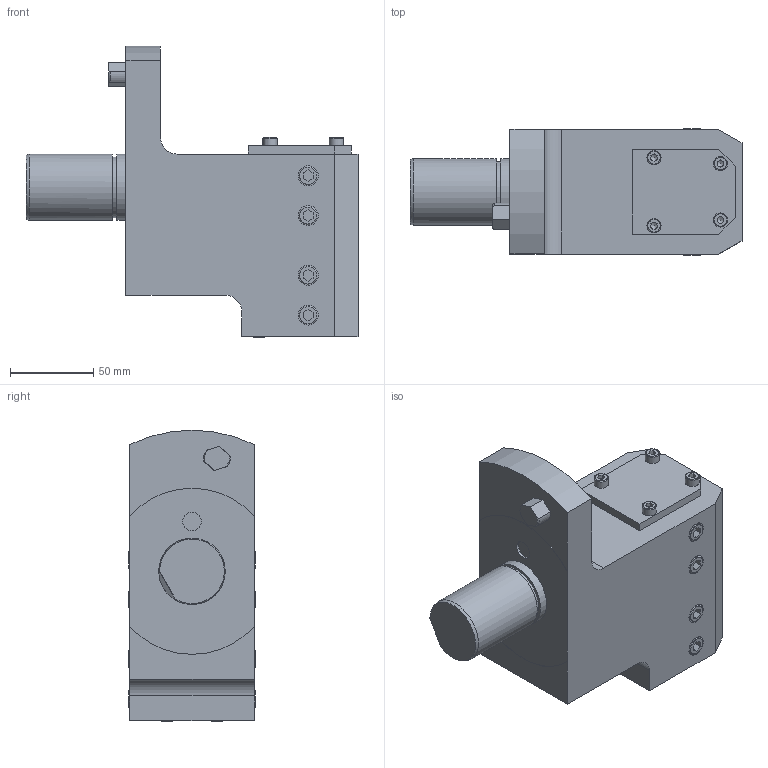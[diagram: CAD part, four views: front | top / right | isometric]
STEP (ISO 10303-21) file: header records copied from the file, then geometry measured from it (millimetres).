
FILE_DESCRIPTION(/* description */ (''),/* implementation_level */ '2;1');
FILE_NAME(/* name */ '117976',/* time_stamp */ '2020-12-21T12:33:33+01:00',/* author */ (''),/* organization */ (''),/* preprocessor_version */ 'ST-DEVELOPER v16.5',/* originating_system */ 'HiCAD 2017 2201.0 Build 268',/* authorisation */ '');
FILE_SCHEMA (('AUTOMOTIVE_DESIGN { 1 0 10303 214 1 1 1 1 }'));
Length unit declared in the file: millimetre
Products named in the file (11): Root; Teil; GEWINDE; DIN 13-M12
Assembly tree (10 placements, depth 3):
  Root
    Teil
      GEWINDE
      GEWINDE
      GEWINDE
      GEWINDE
      GEWINDE
      GEWINDE
      GEWINDE
      GEWINDE
      DIN 13-M12
Bounding box: 200 x 76 x 175.66 mm (x, y, z)
Volume: 1112140.5 mm3; surface area: 128368.5 mm2
Topology: 25 solids, 26 shells, 457 faces, 1100 edges, 713 vertices
Faces by surface type: plane 284, cylinder 87, bspline 45, cone 34, torus 5, sphere 2
Full cylindrical faces by diameter (mm): 8.5 x12, 10.2 x24, 11.1 x1, 12 x24, 32 x1, 36.5 x1, 40 x2
Entity records: 26449 total; most frequent: CARTESIAN_POINT 5263, PRESENTATION_STYLE_ASSIGNMENT 2199, OVER_RIDING_STYLED_ITEM 2189, COLOUR_RGB 1931, DRAUGHTING_PRE_DEFINED_CURVE_FONT 1926, CURVE_STYLE 1926, ORIENTED_EDGE 1926, DIRECTION 1830
